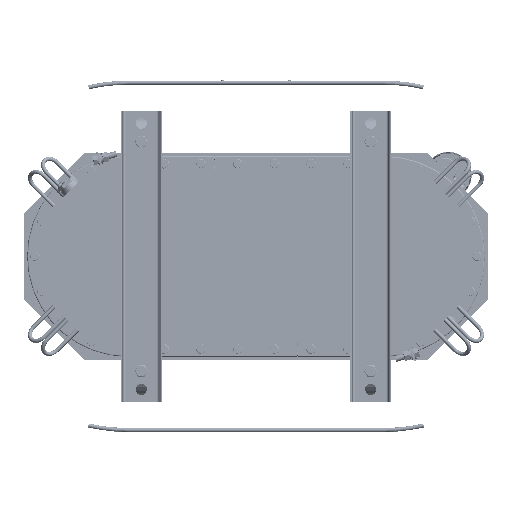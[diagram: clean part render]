
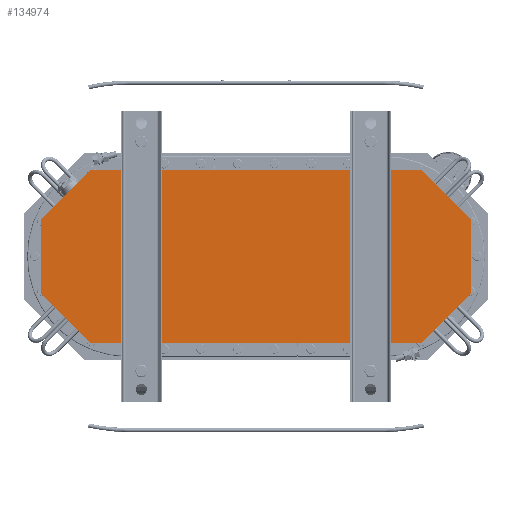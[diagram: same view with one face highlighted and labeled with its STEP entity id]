
A CAD part, front view. The second image highlights one B-rep face of the part: STEP entity #134974.
In plain terms, the highlighted planar face has unit normal (0, -1, 0).
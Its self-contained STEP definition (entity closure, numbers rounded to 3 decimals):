
#16781=FACE_OUTER_BOUND('',#25115,.T.);
#25115=EDGE_LOOP('',(#84337,#84338,#84339,#84340,#84341,#84342,#84343,#84344));
#34754=LINE('',#191967,#43596);
#34760=LINE('',#191978,#43602);
#34767=LINE('',#191993,#43609);
#34770=LINE('',#191998,#43612);
#34771=LINE('',#192002,#43613);
#34774=LINE('',#192006,#43616);
#34775=LINE('',#192009,#43617);
#34777=LINE('',#192012,#43619);
#43596=VECTOR('',#156860,10.);
#43602=VECTOR('',#156868,10.);
#43609=VECTOR('',#156879,10.);
#43612=VECTOR('',#156884,10.);
#43613=VECTOR('',#156887,10.);
#43616=VECTOR('',#156892,10.);
#43617=VECTOR('',#156895,10.);
#43619=VECTOR('',#156899,10.);
#52421=VERTEX_POINT('',#191965);
#52422=VERTEX_POINT('',#191966);
#52426=VERTEX_POINT('',#191976);
#52432=VERTEX_POINT('',#191992);
#52433=VERTEX_POINT('',#191996);
#52434=VERTEX_POINT('',#192000);
#52435=VERTEX_POINT('',#192001);
#52436=VERTEX_POINT('',#192008);
#64751=EDGE_CURVE('',#52421,#52422,#34754,.T.);
#64757=EDGE_CURVE('',#52426,#52421,#34760,.T.);
#64764=EDGE_CURVE('',#52432,#52426,#34767,.T.);
#64767=EDGE_CURVE('',#52433,#52432,#34770,.T.);
#64768=EDGE_CURVE('',#52434,#52435,#34771,.T.);
#64771=EDGE_CURVE('',#52422,#52434,#34774,.T.);
#64772=EDGE_CURVE('',#52436,#52433,#34775,.T.);
#64774=EDGE_CURVE('',#52435,#52436,#34777,.T.);
#84337=ORIENTED_EDGE('',*,*,#64751,.F.);
#84338=ORIENTED_EDGE('',*,*,#64757,.F.);
#84339=ORIENTED_EDGE('',*,*,#64764,.F.);
#84340=ORIENTED_EDGE('',*,*,#64767,.F.);
#84341=ORIENTED_EDGE('',*,*,#64772,.F.);
#84342=ORIENTED_EDGE('',*,*,#64774,.F.);
#84343=ORIENTED_EDGE('',*,*,#64768,.F.);
#84344=ORIENTED_EDGE('',*,*,#64771,.F.);
#122354=PLANE('',#143811);
#134974=ADVANCED_FACE('',(#16781),#122354,.F.);
#143811=AXIS2_PLACEMENT_3D('',#192013,#156900,#156901);
#156860=DIRECTION('',(-0.707,0.,-0.707));
#156868=DIRECTION('',(0.,0.,-1.));
#156879=DIRECTION('',(0.707,0.,-0.707));
#156884=DIRECTION('',(1.,0.,0.));
#156887=DIRECTION('',(-0.707,0.,0.707));
#156892=DIRECTION('',(-1.,0.,0.));
#156895=DIRECTION('',(0.707,0.,0.707));
#156899=DIRECTION('',(0.,0.,1.));
#156900=DIRECTION('center_axis',(0.,1.,0.));
#156901=DIRECTION('ref_axis',(1.,0.,0.));
#191965=CARTESIAN_POINT('',(422.,-3.9,-72.));
#191966=CARTESIAN_POINT('',(324.,-3.9,-170.));
#191967=CARTESIAN_POINT('',(310.,-3.9,-184.));
#191976=CARTESIAN_POINT('',(422.,-3.9,72.));
#191978=CARTESIAN_POINT('',(422.,-3.9,170.));
#191992=CARTESIAN_POINT('',(324.,-3.9,170.));
#191993=CARTESIAN_POINT('',(310.,-3.9,184.));
#191996=CARTESIAN_POINT('',(-324.,-3.9,170.));
#191998=CARTESIAN_POINT('',(-422.,-3.9,170.));
#192000=CARTESIAN_POINT('',(-324.,-3.9,-170.));
#192001=CARTESIAN_POINT('',(-422.,-3.9,-72.));
#192002=CARTESIAN_POINT('',(-310.,-3.9,-184.));
#192006=CARTESIAN_POINT('',(422.,-3.9,-170.));
#192008=CARTESIAN_POINT('',(-422.,-3.9,72.));
#192009=CARTESIAN_POINT('',(-310.,-3.9,184.));
#192012=CARTESIAN_POINT('',(-422.,-3.9,-170.));
#192013=CARTESIAN_POINT('Origin',(0.,-3.9,0.));
